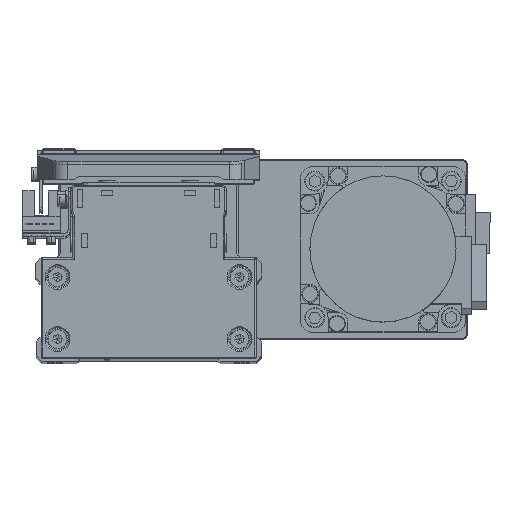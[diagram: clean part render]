
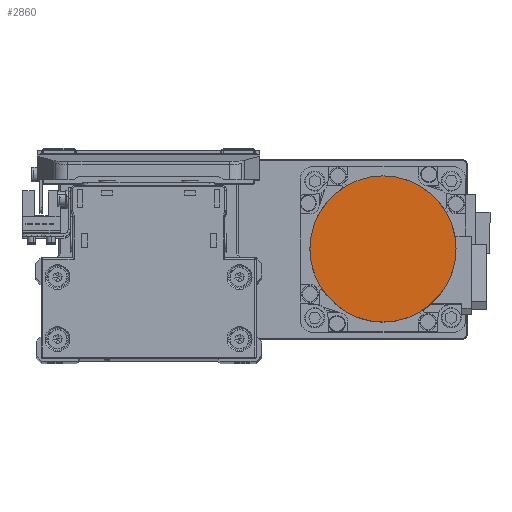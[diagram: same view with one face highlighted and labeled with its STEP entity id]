
A CAD part, top view. The second image highlights one B-rep face of the part: STEP entity #2860.
In plain terms, the highlighted planar face has unit normal (0, 0, 1) as drawn and (0, 0, -1) by its records, which use the part's own axes.
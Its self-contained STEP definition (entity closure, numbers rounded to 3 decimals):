
#844 = EDGE_CURVE ( 'NONE', #13477, #16701, #10633, .T. ) ;
#2316 = DIRECTION ( 'NONE',  ( 1., 0., 0. ) ) ;
#2860 = ADVANCED_FACE ( 'NONE', ( #33642 ), #5411, .F. ) ;
#5411 = PLANE ( 'NONE',  #29918 ) ;
#6581 = CIRCLE ( 'NONE', #29607, 26.5 ) ;
#9440 = ORIENTED_EDGE ( 'NONE', *, *, #28056, .F. ) ;
#10010 = CARTESIAN_POINT ( 'NONE',  ( 0., 0., -109.7 ) ) ;
#10056 = DIRECTION ( 'NONE',  ( 0., 0., 1. ) ) ;
#10545 = CARTESIAN_POINT ( 'NONE',  ( 26.5, 0., -109.7 ) ) ;
#10633 = CIRCLE ( 'NONE', #33654, 26.5 ) ;
#13477 = VERTEX_POINT ( 'NONE', #10545 ) ;
#16541 = ORIENTED_EDGE ( 'NONE', *, *, #844, .F. ) ;
#16701 = VERTEX_POINT ( 'NONE', #31704 ) ;
#17979 = CARTESIAN_POINT ( 'NONE',  ( 0., 0., -109.7 ) ) ;
#22555 = DIRECTION ( 'NONE',  ( 0., 0., 1. ) ) ;
#22609 = DIRECTION ( 'NONE',  ( -1., 0., 0. ) ) ;
#28056 = EDGE_CURVE ( 'NONE', #16701, #13477, #6581, .T. ) ;
#29607 = AXIS2_PLACEMENT_3D ( 'NONE', #38274, #10056, #22609 ) ;
#29918 = AXIS2_PLACEMENT_3D ( 'NONE', #17979, #30527, #2316 ) ;
#30527 = DIRECTION ( 'NONE',  ( 0., 0., 1. ) ) ;
#31704 = CARTESIAN_POINT ( 'NONE',  ( -26.5, 0., -109.7 ) ) ;
#33317 = EDGE_LOOP ( 'NONE', ( #9440, #16541 ) ) ;
#33642 = FACE_OUTER_BOUND ( 'NONE', #33317, .T. ) ;
#33654 = AXIS2_PLACEMENT_3D ( 'NONE', #10010, #22555, #35141 ) ;
#35141 = DIRECTION ( 'NONE',  ( 1., 0., 0. ) ) ;
#38274 = CARTESIAN_POINT ( 'NONE',  ( 0., 0., -109.7 ) ) ;
